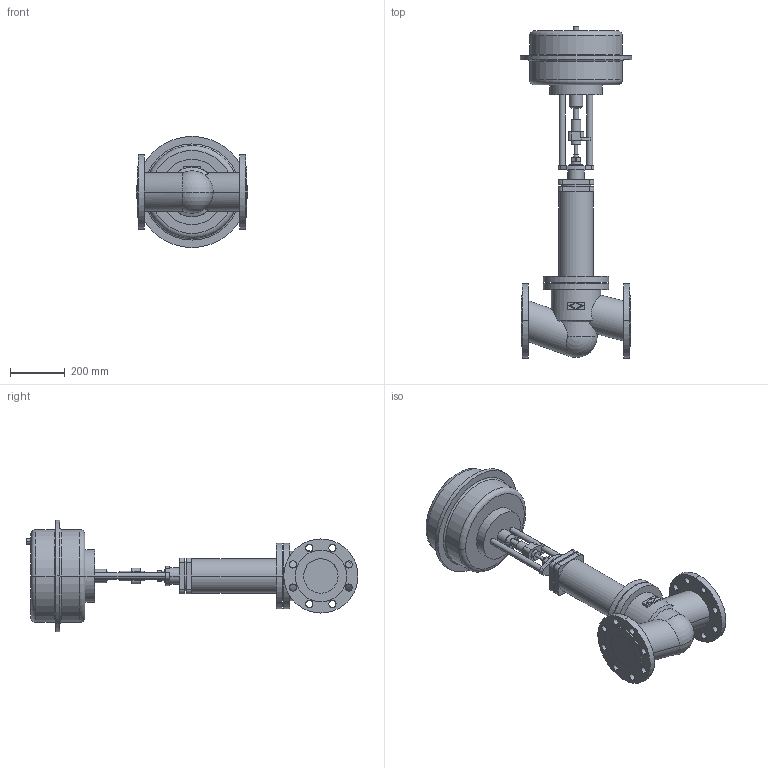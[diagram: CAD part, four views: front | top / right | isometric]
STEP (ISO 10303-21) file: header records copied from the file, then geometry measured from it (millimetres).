
FILE_DESCRIPTION(('CoCreate Modeling STEP Export'),'2;1');
FILE_NAME('c000004830.stp','2011-10-26T 8:18:54',(''),(''),'CoCreate Modeling STEP processor for AP214 (Solid Model)','CoCreate Modeling 17.0 01-Apr-2010 (C) Parametric Technology GmbH','');
FILE_SCHEMA(('AUTOMOTIVE_DESIGN { 1 0 10303 214 1 1 1 1 }'));
Length unit declared in the file: millimetre
Products named in the file (2): 1; 2
Bounding box: 405 x 1208.2 x 405 mm (x, y, z)
Volume: 37167083.5 mm3; surface area: 1315610.4 mm2
Topology: 2 solids, 2 shells, 212 faces, 519 edges, 342 vertices
Faces by surface type: cylinder 116, plane 80, torus 10, cone 4, sphere 2
Entity records: 7623 total; most frequent: CARTESIAN_POINT 1220, ORIENTED_EDGE 1034, DIRECTION 873, EDGE_CURVE 517, VERTEX_POINT 342, AXIS2_PLACEMENT_3D 316, EDGE_LOOP 277, VECTOR 241
